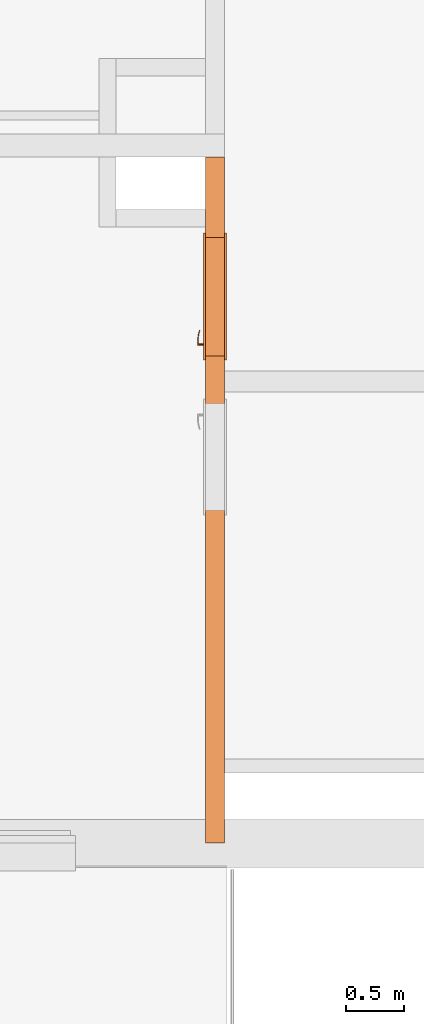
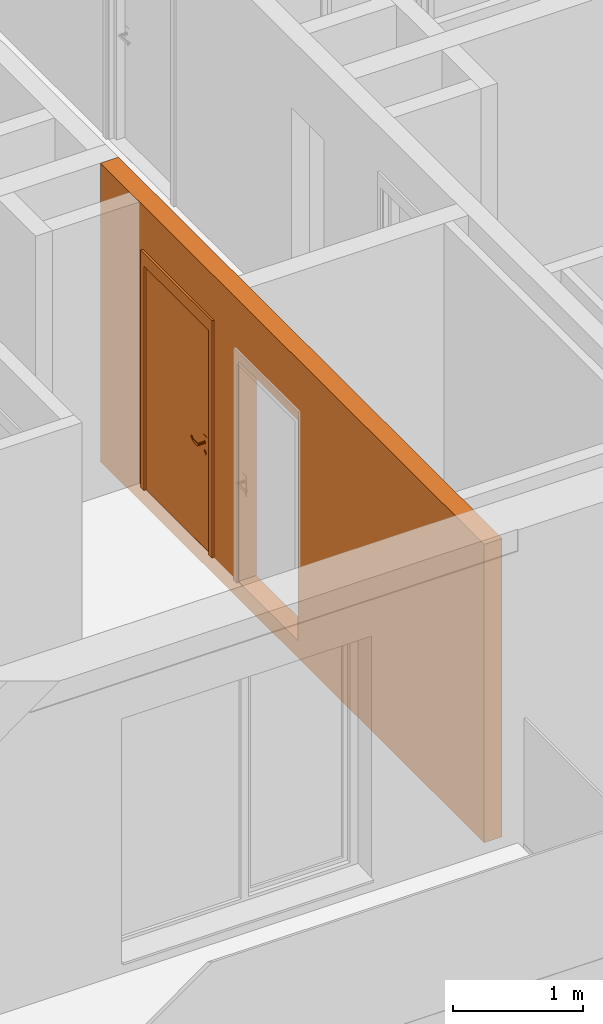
# One storey, part 9 of 67: 2 proxies, 2 openings.
"""IFC2X3 building model written with IfcOpenShell, lengths in millimetres."""

import ifcopenshell
import ifcopenshell.guid

model = None  # the IFC model being written
_history = None  # IfcOwnerHistory: only IFC2X3 demands one
_inside = {}  # id of a spatial element -> (the spatial element, [elements in it])
_under = {}  # id of a project, library or spatial element -> (it, [spatial elements below it])
_declared = {}  # id of a project -> (the project, [libraries it declares])
_typed = {}  # id of a type object -> (the type object, [elements of that type])
_made_of = {}  # id of a material, layer set ... -> (it, [elements and type objects made of it])


def new_model(schema):
    """Start an empty IFC model of exactly this schema.

    Asked for "IFC4X3", IfcOpenShell would pick the latest addendum, in which some entities
    have other attributes; the version numbers below select the first issue.
    IFC2X3 requires an IfcOwnerHistory on every rooted entity: one is made here for all.
    """
    global model, _history
    if schema == "IFC4X3":
        model = ifcopenshell.file(schema_version=(4, 3, 0, 0))
    else:
        model = ifcopenshell.file(schema=schema)
    _inside.clear()
    _under.clear()
    _declared.clear()
    _typed.clear()
    _made_of.clear()
    _history = None
    if model.schema == "IFC2X3":
        org = make("IfcOrganization", Name="unknown")
        user = make(
            "IfcPersonAndOrganization",
            ThePerson=make("IfcPerson", FamilyName="unknown"),
            TheOrganization=org,
        )
        app = make(
            "IfcApplication",
            ApplicationDeveloper=org,
            Version="unknown",
            ApplicationFullName="unknown",
            ApplicationIdentifier="unknown",
        )
        _history = make(
            "IfcOwnerHistory",
            OwningUser=user,
            OwningApplication=app,
            ChangeAction="ADDED",
            CreationDate=0,
        )
    return model


def make(cls, **values):
    """One entity of the class cls with the attributes given. An attribute that is None is left unset."""
    return model.create_entity(
        cls, **{name: value for name, value in values.items() if value is not None}
    )


def entity(cls, *values):
    """Any entity or typed value of the class cls, its attributes in the order of the schema. None: left unset."""
    e = model.create_entity(cls)
    for i, value in enumerate(values):
        if value is not None:
            e[i] = value
    return e


def rooted(cls, **values):
    """An entity with a GlobalId (a new one), such as an element, a storey or a relation."""
    return make(cls, GlobalId=ifcopenshell.guid.new(), OwnerHistory=_history, **values)


def si_unit(unit_type, name, prefix=None):
    """IfcSIUnit, for example si_unit("LENGTHUNIT", "METRE", prefix="MILLI")."""
    return make("IfcSIUnit", UnitType=unit_type, Prefix=prefix, Name=name)


def converted_unit(unit_type, name, factor, base, dimensions=None, offset=None):
    """IfcConversionBasedUnit, such as the inch: factor (a typed value) times the base unit."""
    return make(
        "IfcConversionBasedUnit"
        if offset is None
        else "IfcConversionBasedUnitWithOffset",
        ConversionOffset=offset,
        Dimensions=None
        if dimensions is None
        else entity("IfcDimensionalExponents", *dimensions),
        UnitType=unit_type,
        Name=name,
        ConversionFactor=make(
            "IfcMeasureWithUnit", ValueComponent=factor, UnitComponent=base
        ),
    )


def derived_unit(unit_type, elements):
    """IfcDerivedUnit: a product of units, each with its exponent."""
    return make(
        "IfcDerivedUnit",
        Elements=[
            make("IfcDerivedUnitElement", Unit=unit, Exponent=power)
            for unit, power in elements
        ],
        UnitType=unit_type,
    )


def money_unit(currency):
    """IfcMonetaryUnit."""
    return make("IfcMonetaryUnit", Currency=currency)


def assignment(units):
    """IfcUnitAssignment: the units of a project."""
    return None if units is None else make("IfcUnitAssignment", Units=units)


def point(xyz):
    """IfcCartesianPoint."""
    return None if xyz is None else make("IfcCartesianPoint", Coordinates=xyz)


def direction(xyz):
    """IfcDirection."""
    return None if xyz is None else make("IfcDirection", DirectionRatios=xyz)


def frame(location, z_axis=None, x_axis=None):
    """IfcAxis2Placement3D, a coordinate frame: its origin and axes. An axis left out is left unset."""
    return make(
        "IfcAxis2Placement3D",
        Location=point(location),
        Axis=direction(z_axis),
        RefDirection=direction(x_axis),
    )


def frame_2d(location, x_axis=None):
    """IfcAxis2Placement2D, a coordinate frame in the plane: its origin and x axis."""
    return make(
        "IfcAxis2Placement2D", Location=point(location), RefDirection=direction(x_axis)
    )


def origin_with_axes():
    """The frame at (0, 0, 0) with the z axis (0, 0, 1) and the x axis (1, 0, 0) written out."""
    return frame((0.0, 0.0, 0.0), z_axis=(0.0, 0.0, 1.0), x_axis=(1.0, 0.0, 0.0))


def origin_2d_with_axis():
    """The frame at (0, 0) in the plane with the x axis (1, 0) written out."""
    return frame_2d((0.0, 0.0), x_axis=(1.0, 0.0))


def place(relative_to, where):
    """IfcLocalPlacement: puts the frame where relative to a parent placement (None: the world)."""
    return make(
        "IfcLocalPlacement", PlacementRelTo=relative_to, RelativePlacement=where
    )


def context(
    kind, dimensions, precision=None, world=None, true_north=None, identifier=None
):
    """IfcGeometricRepresentationContext, for example the 3D "Model" context."""
    return make(
        "IfcGeometricRepresentationContext",
        ContextIdentifier=identifier,
        ContextType=kind,
        CoordinateSpaceDimension=dimensions,
        Precision=precision,
        WorldCoordinateSystem=world,
        TrueNorth=true_north,
    )


def subcontext(parent, identifier, kind, view, scale=None):
    """IfcGeometricRepresentationSubContext, for example "Body" below "Model"."""
    return make(
        "IfcGeometricRepresentationSubContext",
        ContextIdentifier=identifier,
        ContextType=kind,
        ParentContext=parent,
        TargetScale=scale,
        TargetView=view,
    )


def project(units=None, contexts=None):
    """IfcProject with its units and contexts."""
    return rooted(
        "IfcProject",
        Name="project",
        RepresentationContexts=contexts,
        UnitsInContext=assignment(units),
    )


def spatial(cls, under=None, at=None, **own):
    """A site, building, storey or space (cls), placed at a placement, below another one or the project."""
    s = rooted(cls, ObjectPlacement=at, **own)
    if under is not None:
        _under.setdefault(under.id(), (under, []))[1].append(s)
    return s


def profile(cls, at=None, kind="AREA", **sizes):
    """A parametric profile (cls). Its sizes go by their IFC names, for example OverallWidth=200.0."""
    return make(cls, ProfileType=kind, Position=at, **sizes)


def rectangle(**sizes):
    """IfcRectangleProfileDef."""
    return profile("IfcRectangleProfileDef", **sizes)


def extrude(swept, where, along, depth):
    """IfcExtrudedAreaSolid: the profile swept, set in the frame where, extruded along a direction by depth."""
    return make(
        "IfcExtrudedAreaSolid",
        SweptArea=swept,
        Position=where,
        ExtrudedDirection=direction(along),
        Depth=depth,
    )


def faces_of(points, faces, orient=None, outer=None):
    """IfcFace entities. A face is a list of loops; a loop is a list of indices into points, from 0.

    orient and outer hold one flag for each loop. By default every Orientation is true, the
    first loop of a face is its IfcFaceOuterBound and the others are IfcFaceBound.
    """
    made = []
    for i, loops in enumerate(faces):
        bounds = []
        for j, loop in enumerate(loops):
            is_outer = j == 0 if outer is None else outer[i][j]
            bounds.append(
                make(
                    "IfcFaceOuterBound" if is_outer else "IfcFaceBound",
                    Bound=make("IfcPolyLoop", Polygon=[points[k] for k in loop]),
                    Orientation=True if orient is None else orient[i][j],
                )
            )
        made.append(make("IfcFace", Bounds=bounds))
    return made


def open_shell(faces, orient=None, outer=None):
    """The faces of one IfcOpenShell. surface_model builds it on its shared points."""
    return ("IfcOpenShell", faces, orient, outer)


def faceted_brep(points, faces, orient=None, outer=None, voids=None):
    """IfcFacetedBrep: a solid bounded by flat faces; with voids (closed shells), ...WithVoids."""
    shared = [point(p) for p in points]
    hull = make("IfcClosedShell", CfsFaces=faces_of(shared, faces, orient, outer))
    if voids is None:
        return make("IfcFacetedBrep", Outer=hull)
    return make(
        "IfcFacetedBrepWithVoids",
        Outer=hull,
        Voids=[
            make(cls, CfsFaces=faces_of(shared, fs, o, b)) for cls, fs, o, b in voids
        ],
    )


def surface_model(cls, points, shells):
    """IfcFaceBasedSurfaceModel or IfcShellBasedSurfaceModel (cls): surfaces that need not close."""
    shared = [point(p) for p in points]
    made = [make(c, CfsFaces=faces_of(shared, fs, o, b)) for c, fs, o, b in shells]
    if cls == "IfcFaceBasedSurfaceModel":
        return make(cls, FbsmFaces=made)
    return make(cls, SbsmBoundary=made)


def shape(context_of_items, identifier, shape_type, items):
    """IfcShapeRepresentation: the items that make up one representation, for example the "Body"."""
    return make(
        "IfcShapeRepresentation",
        ContextOfItems=context_of_items,
        RepresentationIdentifier=identifier,
        RepresentationType=shape_type,
        Items=items,
    )


def source(mapping_origin, context_of_items, identifier, shape_type, items):
    """IfcRepresentationMap: a shape defined once, which mapped items show again and again."""
    return make(
        "IfcRepresentationMap",
        MappingOrigin=mapping_origin,
        MappedRepresentation=shape(context_of_items, identifier, shape_type, items),
    )


def transform(
    local_origin,
    x_axis=None,
    y_axis=None,
    z_axis=None,
    scale=None,
    scale2=None,
    scale3=None,
    uniform=True,
):
    """IfcCartesianTransformationOperator3D, or its non-uniform kind. x_axis, y_axis, z_axis: its Axis1, 2, 3."""
    if uniform:
        return make(
            "IfcCartesianTransformationOperator3D",
            Axis1=direction(x_axis),
            Axis2=direction(y_axis),
            LocalOrigin=point(local_origin),
            Scale=scale,
            Axis3=direction(z_axis),
        )
    return make(
        "IfcCartesianTransformationOperator3DnonUniform",
        Axis1=direction(x_axis),
        Axis2=direction(y_axis),
        LocalOrigin=point(local_origin),
        Scale=scale,
        Axis3=direction(z_axis),
        Scale2=scale2,
        Scale3=scale3,
    )


def mapped(mapping_source, mapping_target):
    """IfcMappedItem: shows the shape of a source again, moved by a transform."""
    return make(
        "IfcMappedItem", MappingSource=mapping_source, MappingTarget=mapping_target
    )


def material(Name=None, Category=None):
    """IfcMaterial."""
    return make("IfcMaterial", Name=Name, Category=Category)


def made_of(thing, what):
    """Note that an element or type object is made of a material, layer set ...; save() writes the relation."""
    if what is not None:
        _made_of.setdefault(what.id(), (what, []))[1].append(thing)
    return thing


def type_object(cls, material=None, **own):
    """A type object (cls), such as IfcWallType, which elements share."""
    return made_of(rooted(cls, **own), material)


def element(
    cls,
    number,
    at=None,
    inside=None,
    cuts=None,
    type_object=None,
    material=None,
    context=None,
    identifier="Body",
    shape_type=None,
    held_by="IfcProductDefinitionShape",
    body=None,
    shapes=None,
    **own,
):
    """One element of the class cls, such as IfcWall. Its Tag is "e" and its number.

    at: its placement. inside: the storey or other place that contains it. cuts: it is an
    opening in that element (IfcRelVoidsElement). A single representation is given by context,
    identifier, shape_type and body (its items); several are given by shapes. held_by: the class
    of the entity that holds the representations. save() writes the other relations.
    """
    e = rooted(cls, Tag="e%d" % number, ObjectPlacement=at, **own)
    if body is not None:
        shapes = [shape(context, identifier, shape_type, body)]
    if shapes is not None:
        e.Representation = make(held_by, Representations=shapes)
    if inside is not None:
        _inside.setdefault(inside.id(), (inside, []))[1].append(e)
    if cuts is not None:
        rooted(
            "IfcRelVoidsElement", RelatingBuildingElement=cuts, RelatedOpeningElement=e
        )
    if type_object is not None:
        _typed.setdefault(type_object.id(), (type_object, []))[1].append(e)
    return made_of(e, material)


def fill(opening, filler):
    """IfcRelFillsElement: the door or window that sits in an opening."""
    return rooted(
        "IfcRelFillsElement",
        RelatingOpeningElement=opening,
        RelatedBuildingElement=filler,
    )


def aggregate(whole, parts):
    """IfcRelAggregates: a whole, such as a stair, and the parts it consists of."""
    return rooted("IfcRelAggregates", RelatingObject=whole, RelatedObjects=parts)


def save(model, path):
    """Write the relations noted so far, then the file.

    IfcRelAggregates (storeys below a building ...), IfcRelContainedInSpatialStructure (elements
    in a storey), IfcRelDefinesByType, IfcRelAssociatesMaterial and IfcRelDeclares: one each for
    every whole, place, type object, material and project.
    """
    for whole, parts in _under.values():
        aggregate(whole, parts)
    for where, things in _inside.values():
        rooted(
            "IfcRelContainedInSpatialStructure",
            RelatedElements=things,
            RelatingStructure=where,
        )
    for kind, things in _typed.values():
        rooted("IfcRelDefinesByType", RelatedObjects=things, RelatingType=kind)
    for what, things in _made_of.values():
        rooted("IfcRelAssociatesMaterial", RelatedObjects=things, RelatingMaterial=what)
    for by, libraries in _declared.values():
        rooted("IfcRelDeclares", RelatingContext=by, RelatedDefinitions=libraries)
    model.write(path)


model = new_model("IFC2X3")

# Units and contexts
model_context = context("Model", 3, precision=0.01, world=origin_with_axes(), true_north=direction((0.34421633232, 0.938890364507)))
body_context = subcontext(model_context, "Body", "Model", "MODEL_VIEW")
ifc_project = project(units=[si_unit("LENGTHUNIT", "METRE", prefix="MILLI"), si_unit("AREAUNIT", "SQUARE_METRE"), si_unit("VOLUMEUNIT", "CUBIC_METRE"), converted_unit("PLANEANGLEUNIT", "DEGREE", entity("IfcPlaneAngleMeasure", 0.0174532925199), si_unit("PLANEANGLEUNIT", "RADIAN"), dimensions=[0, 0, 0, 0, 0, 0, 0]), si_unit("SOLIDANGLEUNIT", "STERADIAN"), money_unit("USD"), converted_unit("TIMEUNIT", "Year", entity("IfcTimeMeasure", 31556926.0), si_unit("TIMEUNIT", "SECOND"), dimensions=[0, 0, 1, 0, 0, 0, 0]), si_unit("MASSUNIT", "GRAM", prefix="KILO"), si_unit("THERMODYNAMICTEMPERATUREUNIT", "DEGREE_CELSIUS"), si_unit("LUMINOUSINTENSITYUNIT", "LUMEN"), si_unit("ENERGYUNIT", "JOULE", prefix="MEGA"), derived_unit("THERMALCONDUCTANCEUNIT", [(si_unit("POWERUNIT", "WATT"), 1), (si_unit("LENGTHUNIT", "METRE"), -1), (si_unit("THERMODYNAMICTEMPERATUREUNIT", "KELVIN"), -1)]), derived_unit("SPECIFICHEATCAPACITYUNIT", [(si_unit("ENERGYUNIT", "JOULE"), 1), (si_unit("MASSUNIT", "GRAM", prefix="KILO"), -1), (si_unit("THERMODYNAMICTEMPERATUREUNIT", "KELVIN"), -1)]), derived_unit("MASSDENSITYUNIT", [(si_unit("MASSUNIT", "GRAM", prefix="KILO"), 1), (si_unit("VOLUMEUNIT", "CUBIC_METRE"), -1)])], contexts=[model_context])

# Site, building, storey
site_placement = place(None, origin_with_axes())
site = spatial("IfcSite", under=ifc_project, at=site_placement, Name="USTRONIE MORSKIE", CompositionType="ELEMENT")
building_placement = place(site_placement, origin_with_axes())
building = spatial("IfcBuilding", under=site, at=building_placement, Name="Budynek", CompositionType="ELEMENT")
storey_placement = place(building_placement, frame((0.0, 0.0, 4000.0), z_axis=(0.0, 0.0, 1.0), x_axis=(1.0, 0.0, 0.0)))
storey = spatial("IfcBuildingStorey", under=building, at=storey_placement, Name="PIĘTRO 1", CompositionType="ELEMENT", Elevation=4000.0)

# Proxies, openings
ifc_material = material(Name="Beton konstrukcyjny B25")
building_element_proxy_type_1 = type_object("IfcBuildingElementProxyType", Name="Beton konstrukcyjny B25 160", PredefinedType="NOTDEFINED")
proxy_1_placement = place(storey_placement, frame((357517.920919, 715101.199036, -160.0), z_axis=(0.0, 0.0, 1.0), x_axis=(0.0, -1.0, 0.0)))
proxy_1 = element("IfcBuildingElementProxy", 1, at=proxy_1_placement, inside=storey, type_object=building_element_proxy_type_1, material=ifc_material, Name="SW-01", context=body_context, shape_type="Brep", body=[
    faceted_brep([(6000.0, 80.0, 0.0), (100.0, 80.0, 0.0), (100.0, 80.0, 2800.0), (6000.0, 80.0, 2800.0), (6000.0, -80.0, 0.0), (100.0, -80.0, 0.0), (100.0, -80.0, 2800.0), (6000.0, -80.0, 2800.0)], [[[0, 1, 2, 3]], [[4, 5, 1, 0]], [[5, 6, 2, 1]], [[3, 2, 6, 7]], [[4, 0, 3, 7]], [[7, 6, 5, 4]]]),
])
opening_1_placement = place(proxy_1_placement, frame((1300.00000044, 0.0, 160.0), z_axis=(0.0, 0.0, 1.0), x_axis=(1.0, 0.0, 0.0)))
opening_1 = element("IfcOpeningElement", 2, at=opening_1_placement, cuts=proxy_1, Name="Dw.1", context=body_context, shape_type="SweptSolid", body=[
    extrude(rectangle(XDim=1020.0, YDim=2120.0, at=origin_2d_with_axis()), frame((0.0, 160.0, 1060.0), z_axis=(0.0, -1.0, 0.0), x_axis=(-1.0, 0.0, 0.0)), (0.0, 0.0, 1.0), 480.0),
    extrude(rectangle(XDim=1094.0, YDim=2227.0, at=origin_2d_with_axis()), frame((0.0, 80.0, 1113.5), z_axis=(0.0, -1.0, 0.0), x_axis=(-1.0, 0.0, 0.0)), (0.0, 0.0, -1.0), 160.0),
    extrude(rectangle(XDim=1094.0, YDim=2227.0, at=origin_2d_with_axis()), frame((0.0, -80.0, 1113.5), z_axis=(0.0, 1.0, 0.0), x_axis=(-1.0, 0.0, 0.0)), (0.0, 0.0, -1.0), 160.0),
])
opening_2_placement = place(proxy_1_placement, frame((2680.00000044, 0.0, 160.0), z_axis=(0.0, 0.0, 1.0), x_axis=(1.0, 0.0, 0.0)))
element("IfcOpeningElement", 3, at=opening_2_placement, cuts=proxy_1, Name="Dw.4", context=body_context, shape_type="SweptSolid", body=[
    extrude(rectangle(XDim=920.0, YDim=2070.0, at=origin_2d_with_axis()), frame((0.0, 160.0, 1035.0), z_axis=(0.0, 1.0, 0.0), x_axis=(1.0, 0.0, 0.0)), (0.0, 0.0, -1.0), 480.0),
    extrude(rectangle(XDim=994.0, YDim=2177.0, at=origin_2d_with_axis()), frame((0.0, 80.0, 1088.5), z_axis=(0.0, 1.0, 0.0), x_axis=(1.0, 0.0, 0.0)), (0.0, 0.0, 1.0), 160.0),
    extrude(rectangle(XDim=994.0, YDim=2177.0, at=origin_2d_with_axis()), frame((0.0, -80.0, 1088.5), z_axis=(0.0, -1.0, 0.0), x_axis=(1.0, 0.0, 0.0)), (0.0, 0.0, 1.0), 160.0),
])
building_element_proxy_type_2 = type_object("IfcBuildingElementProxyType", Name="Drzwi 23", PredefinedType="NOTDEFINED")
shared_shape = source(origin_with_axes(), body_context, "Body", "SurfaceModel", [
    faceted_brep([(-510.0, -115.0, 0.0), (-485.0, -115.0, 0.0), (-485.0, -160.0, 0.0), (-510.0, -160.0, 0.0), (-510.0, -115.0, 2120.0), (-485.0, -115.0, 2095.0), (-485.0, -160.0, 2095.0), (-510.0, -160.0, 2120.0)], [[[0, 1, 2, 3]], [[0, 4, 5, 1]], [[1, 5, 6, 2]], [[3, 2, 6, 7]], [[4, 0, 3, 7]], [[5, 4, 7, 6]]]),
    faceted_brep([(510.0, -115.0, 2120.0), (485.0, -115.0, 2095.0), (485.0, -160.0, 2095.0), (510.0, -160.0, 2120.0), (510.0, -115.0, 0.0), (485.0, -115.0, 0.0), (485.0, -160.0, 0.0), (510.0, -160.0, 0.0)], [[[0, 1, 2, 3]], [[0, 4, 5, 1]], [[1, 5, 6, 2]], [[3, 2, 6, 7]], [[4, 0, 3, 7]], [[5, 4, 7, 6]]]),
    faceted_brep([(-485.0, -115.0, 2095.0), (485.0, -115.0, 2095.0), (485.0, -160.0, 2095.0), (-485.0, -160.0, 2095.0), (-510.0, -115.0, 2120.0), (510.0, -115.0, 2120.0), (510.0, -160.0, 2120.0), (-510.0, -160.0, 2120.0)], [[[0, 1, 2, 3]], [[0, 4, 5, 1]], [[1, 5, 6, 2]], [[3, 2, 6, 7]], [[4, 0, 3, 7]], [[5, 4, 7, 6]]]),
    faceted_brep([(-547.0, -179.0, 0.0), (-547.0, -160.0, 0.0), (-497.0, -160.0, 0.0), (-497.0, -179.0, 0.0), (-547.0, -179.0, 2227.0), (-547.0, -160.0, 2227.0), (-497.0, -160.0, 2107.0), (-497.0, -179.0, 2107.0)], [[[0, 1, 2, 3]], [[4, 5, 1, 0]], [[1, 5, 6, 2]], [[3, 2, 6, 7]], [[0, 3, 7, 4]], [[7, 6, 5, 4]]]),
    faceted_brep([(547.0, -179.0, 2227.0), (547.0, -160.0, 2227.0), (497.0, -160.0, 2107.0), (497.0, -179.0, 2107.0), (547.0, -179.0, 0.0), (547.0, -160.0, 0.0), (497.0, -160.0, 0.0), (497.0, -179.0, 0.0)], [[[0, 1, 2, 3]], [[4, 5, 1, 0]], [[1, 5, 6, 2]], [[3, 2, 6, 7]], [[0, 3, 7, 4]], [[7, 6, 5, 4]]]),
    faceted_brep([(-547.0, -179.0, 2227.0), (-547.0, -160.0, 2227.0), (-497.0, -160.0, 2107.0), (-497.0, -179.0, 2107.0), (547.0, -179.0, 2227.0), (547.0, -160.0, 2227.0), (497.0, -160.0, 2107.0), (497.0, -179.0, 2107.0)], [[[0, 1, 2, 3]], [[4, 5, 1, 0]], [[1, 5, 6, 2]], [[3, 2, 6, 7]], [[0, 3, 7, 4]], [[7, 6, 5, 4]]]),
    faceted_brep([(-547.0, 19.0, 0.0), (-497.0, 19.0, 0.0), (-497.0, 0.0, 0.0), (-547.0, 0.0, 0.0), (-547.0, 19.0, 2227.0), (-497.0, 19.0, 2107.0), (-497.0, 0.0, 2107.0), (-547.0, 0.0, 2227.0)], [[[0, 1, 2, 3]], [[0, 4, 5, 1]], [[1, 5, 6, 2]], [[3, 2, 6, 7]], [[4, 0, 3, 7]], [[5, 4, 7, 6]]]),
    faceted_brep([(547.0, 19.0, 2227.0), (497.0, 19.0, 2107.0), (497.0, 0.0, 2107.0), (547.0, 0.0, 2227.0), (547.0, 19.0, 0.0), (497.0, 19.0, 0.0), (497.0, 0.0, 0.0), (547.0, 0.0, 0.0)], [[[0, 1, 2, 3]], [[0, 4, 5, 1]], [[1, 5, 6, 2]], [[3, 2, 6, 7]], [[4, 0, 3, 7]], [[5, 4, 7, 6]]]),
    faceted_brep([(-547.0, 19.0, 2227.0), (-497.0, 19.0, 2107.0), (-497.0, 0.0, 2107.0), (-547.0, 0.0, 2227.0), (547.0, 19.0, 2227.0), (497.0, 19.0, 2107.0), (497.0, 0.0, 2107.0), (547.0, 0.0, 2227.0)], [[[0, 1, 2, 3]], [[0, 4, 5, 1]], [[1, 5, 6, 2]], [[3, 2, 6, 7]], [[4, 0, 3, 7]], [[5, 4, 7, 6]]]),
    faceted_brep([(-450.0, -40.0, 0.0), (-450.0, -40.0, 2050.0), (-450.0, -115.0, 2050.0), (-450.0, -115.0, 0.0), (-462.0, -40.0, 2050.0), (-462.0, -40.0, 0.0), (-462.0, 0.0, 2050.0), (-510.0, 0.0, 2050.0), (-510.0, -115.0, 2050.0), (-510.0, -115.0, 0.0), (-510.0, 0.0, 0.0), (-462.0, 0.0, 0.0)], [[[0, 1, 2, 3]], [[4, 1, 0, 5]], [[4, 6, 7, 8, 2, 1]], [[3, 2, 8, 9]], [[5, 0, 3, 9, 10, 11]], [[6, 4, 5, 11]], [[6, 11, 10, 7]], [[10, 9, 8, 7]]]),
    faceted_brep([(462.0, -40.0, 2050.0), (450.0, -40.0, 2050.0), (450.0, -115.0, 2050.0), (510.0, -115.0, 2050.0), (510.0, 0.0, 2050.0), (462.0, 0.0, 2050.0), (462.0, -40.0, 0.0), (450.0, -40.0, 0.0), (450.0, -115.0, 0.0), (510.0, -115.0, 0.0), (510.0, 0.0, 0.0), (462.0, 0.0, 0.0)], [[[0, 1, 2, 3, 4, 5]], [[1, 0, 6, 7]], [[1, 7, 8, 2]], [[3, 2, 8, 9]], [[4, 3, 9, 10]], [[11, 5, 4, 10]], [[0, 5, 11, 6]], [[6, 11, 10, 9, 8, 7]]]),
    faceted_brep([(-462.0, 0.0, 2062.0), (-462.0, 0.0, 2050.0), (-510.0, 0.0, 2050.0), (-510.0, 0.0, 2120.0), (510.0, 0.0, 2120.0), (510.0, 0.0, 2050.0), (462.0, 0.0, 2050.0), (462.0, 0.0, 2062.0), (-462.0, -40.0, 2062.0), (-462.0, -40.0, 2050.0), (-450.0, -40.0, 2050.0), (-450.0, -115.0, 2050.0), (-510.0, -115.0, 2050.0), (-510.0, -115.0, 2120.0), (510.0, -115.0, 2120.0), (510.0, -115.0, 2050.0), (462.0, -40.0, 2050.0), (450.0, -115.0, 2050.0), (450.0, -40.0, 2050.0), (462.0, -40.0, 2062.0)], [[[0, 1, 2, 3, 4, 5, 6, 7]], [[1, 0, 8, 9]], [[9, 10, 11, 12, 2, 1]], [[2, 12, 13, 3]], [[3, 13, 14, 4]], [[4, 14, 15, 5]], [[16, 6, 5, 15, 17, 18]], [[7, 6, 16, 19]], [[0, 7, 19, 8]], [[16, 18, 10, 9, 8, 19]], [[10, 18, 17, 11]], [[17, 15, 14, 13, 12, 11]]]),
    faceted_brep([(-440.5, -40.0, 1060.0), (-440.5, -43.0, 1060.0), (-383.5, -43.0, 1060.0), (-383.5, -40.0, 1060.0), (-440.5, -40.0, 870.0), (-440.5, -43.0, 870.0), (-383.5, -43.0, 870.0), (-383.5, -40.0, 870.0)], [[[0, 1, 2, 3]], [[4, 5, 1, 0]], [[1, 5, 6, 2]], [[3, 2, 6, 7]], [[0, 3, 7, 4]], [[7, 6, 5, 4]]]),
    faceted_brep([(-412.0, -104.0, 990.0), (-412.0, -111.0, 990.0), (-417.0, -111.0, 991.339745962), (-417.0, -104.0, 991.339745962), (-387.0, -104.0, 990.0), (-387.0, -111.0, 990.0), (-387.0, -111.0, 1010.0), (-412.0, -111.0, 1010.0), (-417.0, -111.0, 1008.66025404), (-420.660254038, -111.0, 1005.0), (-422.0, -111.0, 1000.0), (-420.660254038, -111.0, 995.0), (-420.660254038, -104.0, 995.0), (-422.0, -104.0, 1000.0), (-420.660254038, -104.0, 1005.0), (-417.0, -104.0, 1008.66025404), (-412.0, -104.0, 1010.0), (-387.0, -104.0, 1010.0)], [[[0, 1, 2, 3]], [[4, 5, 1, 0]], [[1, 5, 6, 7, 8, 9, 10, 11, 2]], [[3, 2, 11, 12]], [[0, 3, 12, 13, 14, 15, 16, 17, 4]], [[17, 6, 5, 4]], [[16, 7, 6, 17]], [[15, 8, 7, 16]], [[14, 9, 8, 15]], [[13, 10, 9, 14]], [[12, 11, 10, 13]]]),
    surface_model("IfcShellBasedSurfaceModel", [(-387.0, -104.0, 1010.0), (-373.596090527, -111.0, 1009.60730092), (-373.901717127, -104.0, 1009.60730092), (-387.0, -111.0, 1010.0), (-346.890283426, -108.663544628, 1008.82190275), (-373.901717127, -104.0, 990.392699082), (-387.0, -104.0, 990.0), (-387.0, -111.0, 990.0), (-373.596090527, -111.0, 990.392699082), (-346.890283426, -108.663544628, 991.178097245), (-347.804837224, -101.716818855, 1008.82190275), (-347.804837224, -101.716818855, 991.178097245), (-320.489735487, -104.008415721, 991.963495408), (-320.489735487, -104.008415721, 1008.03650459), (-322.006256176, -97.1678329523, 1008.03650459), (-322.006256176, -97.1678329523, 991.963495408), (-294.59537082, -97.0700416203, 992.748893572), (-294.59537082, -97.0700416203, 1007.25110643), (-296.702316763, -90.3876628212, 1007.25110643), (-296.702316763, -90.3876628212, 992.748893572), (-286.538795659, -94.1376880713, 993.0), (-286.538795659, -94.1376880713, 1007.0), (-288.829442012, -87.5221707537, 1007.0), (-288.829442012, -87.5221707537, 993.0)], [open_shell([[[0, 1, 2]], [[0, 3, 1]], [[2, 1, 4]], [[0, 2, 5, 6]], [[3, 7, 8, 1]], [[1, 8, 9, 4]], [[2, 4, 10]], [[2, 10, 11, 5]], [[5, 7, 6]], [[5, 8, 7]], [[11, 9, 8]], [[4, 9, 12, 13]], [[10, 4, 13]], [[10, 14, 15, 11]], [[11, 8, 5]], [[15, 9, 11]], [[15, 12, 9]], [[13, 12, 16, 17]], [[10, 13, 14]], [[14, 18, 19, 15]], [[19, 12, 15]], [[19, 16, 12]], [[17, 16, 20, 21]], [[14, 13, 17]], [[14, 17, 18]], [[18, 22, 23, 19]], [[23, 16, 19]], [[23, 20, 16]], [[22, 21, 20, 23]], [[18, 17, 21]], [[18, 21, 22]]])]),
    faceted_brep([(-401.607695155, -53.0, 994.0), (-400.741669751, -43.0, 993.5), (-399.0, -43.0, 1000.0), (-400.0, -53.0, 1000.0), (-406.0, -53.0, 989.607695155), (-405.5, -43.0, 988.741669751), (-412.0, -43.0, 987.0), (-418.5, -43.0, 988.741669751), (-423.258330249, -43.0, 993.5), (-425.0, -43.0, 1000.0), (-423.258330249, -43.0, 1006.5), (-418.5, -43.0, 1011.25833025), (-412.0, -43.0, 1013.0), (-405.5, -43.0, 1011.25833025), (-400.741669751, -43.0, 1006.5), (-401.607695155, -53.0, 1006.0), (-406.0, -53.0, 1010.39230485), (-412.0, -53.0, 1012.0), (-418.0, -53.0, 1010.39230485), (-422.392304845, -53.0, 1006.0), (-424.0, -53.0, 1000.0), (-422.392304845, -53.0, 994.0), (-418.0, -53.0, 989.607695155), (-412.0, -53.0, 988.0)], [[[0, 1, 2, 3]], [[4, 5, 1, 0]], [[2, 1, 5, 6, 7, 8, 9, 10, 11, 12, 13, 14]], [[3, 2, 14, 15]], [[3, 15, 16, 17, 18, 19, 20, 21, 22, 23, 4, 0]], [[23, 6, 5, 4]], [[22, 7, 6, 23]], [[21, 8, 7, 22]], [[20, 9, 8, 21]], [[19, 10, 9, 20]], [[18, 11, 10, 19]], [[17, 12, 11, 18]], [[16, 13, 12, 17]], [[15, 14, 13, 16]]]),
    faceted_brep([(-394.679491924, -47.0, 895.0), (-392.947441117, -43.0, 894.0), (-390.0, -43.0, 905.0), (-392.0, -47.0, 905.0), (-402.0, -47.0, 887.679491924), (-401.0, -43.0, 885.947441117), (-412.0, -43.0, 883.0), (-423.0, -43.0, 885.947441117), (-431.052558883, -43.0, 894.0), (-434.0, -43.0, 905.0), (-431.052558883, -43.0, 916.0), (-423.0, -43.0, 924.052558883), (-412.0, -43.0, 927.0), (-401.0, -43.0, 924.052558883), (-392.947441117, -43.0, 916.0), (-394.679491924, -47.0, 915.0), (-402.0, -47.0, 922.320508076), (-412.0, -47.0, 925.0), (-422.0, -47.0, 922.320508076), (-429.320508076, -47.0, 915.0), (-432.0, -47.0, 905.0), (-429.320508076, -47.0, 895.0), (-422.0, -47.0, 887.679491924), (-412.0, -47.0, 885.0)], [[[0, 1, 2, 3]], [[4, 5, 1, 0]], [[2, 1, 5, 6, 7, 8, 9, 10, 11, 12, 13, 14]], [[3, 2, 14, 15]], [[3, 15, 16, 17, 18, 19, 20, 21, 22, 23, 4, 0]], [[23, 6, 5, 4]], [[22, 7, 6, 23]], [[21, 8, 7, 22]], [[20, 9, 8, 21]], [[19, 10, 9, 20]], [[18, 11, 10, 19]], [[17, 12, 11, 18]], [[16, 13, 12, 17]], [[15, 14, 13, 16]]]),
    faceted_brep([(-407.050252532, -49.0, 909.050252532), (-406.343145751, -47.0, 908.343145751), (-404.0, -47.0, 914.0), (-405.0, -49.0, 914.0), (-412.0, -49.0, 907.0), (-412.0, -47.0, 906.0), (-417.656854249, -47.0, 908.343145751), (-420.0, -47.0, 914.0), (-417.656854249, -47.0, 919.656854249), (-412.0, -47.0, 922.0), (-406.343145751, -47.0, 919.656854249), (-407.050252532, -49.0, 918.949747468), (-412.0, -49.0, 921.0), (-416.949747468, -49.0, 918.949747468), (-419.0, -49.0, 914.0), (-416.949747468, -49.0, 909.050252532)], [[[0, 1, 2, 3]], [[4, 5, 1, 0]], [[2, 1, 5, 6, 7, 8, 9, 10]], [[3, 2, 10, 11]], [[3, 11, 12, 13, 14, 15, 4, 0]], [[15, 6, 5, 4]], [[14, 7, 6, 15]], [[13, 8, 7, 14]], [[12, 9, 8, 13]], [[11, 10, 9, 12]]]),
    faceted_brep([(-412.0, -53.0, 1010.0), (-412.0, -104.0, 1010.0), (-407.0, -104.0, 1008.66025404), (-407.0, -53.0, 1008.66025404), (-417.0, -53.0, 1008.66025404), (-417.0, -104.0, 1008.66025404), (-420.660254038, -104.0, 1005.0), (-422.0, -104.0, 1000.0), (-420.660254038, -104.0, 995.0), (-417.0, -104.0, 991.339745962), (-412.0, -104.0, 990.0), (-407.0, -104.0, 991.339745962), (-403.339745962, -104.0, 995.0), (-402.0, -104.0, 1000.0), (-403.339745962, -104.0, 1005.0), (-403.339745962, -53.0, 1005.0), (-402.0, -53.0, 1000.0), (-403.339745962, -53.0, 995.0), (-407.0, -53.0, 991.339745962), (-412.0, -53.0, 990.0), (-417.0, -53.0, 991.339745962), (-420.660254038, -53.0, 995.0), (-422.0, -53.0, 1000.0), (-420.660254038, -53.0, 1005.0)], [[[0, 1, 2, 3]], [[4, 5, 1, 0]], [[1, 5, 6, 7, 8, 9, 10, 11, 12, 13, 14, 2]], [[3, 2, 14, 15]], [[0, 3, 15, 16, 17, 18, 19, 20, 21, 22, 23, 4]], [[23, 6, 5, 4]], [[22, 7, 6, 23]], [[21, 8, 7, 22]], [[20, 9, 8, 21]], [[19, 10, 9, 20]], [[18, 11, 10, 19]], [[17, 12, 11, 18]], [[16, 13, 12, 17]], [[15, 14, 13, 16]]]),
    faceted_brep([(-440.5, 0.0, 1060.0), (-383.5, 0.0, 1060.0), (-383.5, 3.0, 1060.0), (-440.5, 3.0, 1060.0), (-440.5, 0.0, 870.0), (-383.5, 0.0, 870.0), (-383.5, 3.0, 870.0), (-440.5, 3.0, 870.0)], [[[0, 1, 2, 3]], [[0, 4, 5, 1]], [[1, 5, 6, 2]], [[3, 2, 6, 7]], [[4, 0, 3, 7]], [[5, 4, 7, 6]]]),
    faceted_brep([(-412.0, 64.0, 990.0), (-417.0, 64.0, 991.339745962), (-417.0, 71.0, 991.339745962), (-412.0, 71.0, 990.0), (-387.0, 64.0, 990.0), (-387.0, 64.0, 1010.0), (-412.0, 64.0, 1010.0), (-417.0, 64.0, 1008.66025404), (-420.660254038, 64.0, 1005.0), (-422.0, 64.0, 1000.0), (-420.660254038, 64.0, 995.0), (-420.660254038, 71.0, 995.0), (-422.0, 71.0, 1000.0), (-420.660254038, 71.0, 1005.0), (-417.0, 71.0, 1008.66025404), (-412.0, 71.0, 1010.0), (-387.0, 71.0, 1010.0), (-387.0, 71.0, 990.0)], [[[0, 1, 2, 3]], [[0, 4, 5, 6, 7, 8, 9, 10, 1]], [[1, 10, 11, 2]], [[3, 2, 11, 12, 13, 14, 15, 16, 17]], [[4, 0, 3, 17]], [[5, 4, 17, 16]], [[6, 5, 16, 15]], [[7, 6, 15, 14]], [[8, 7, 14, 13]], [[9, 8, 13, 12]], [[10, 9, 12, 11]]]),
    surface_model("IfcShellBasedSurfaceModel", [(-387.0, 64.0, 1010.0), (-373.901717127, 64.0, 1009.60730092), (-373.596090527, 71.0, 1009.60730092), (-387.0, 64.0, 990.0), (-373.901717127, 64.0, 990.392699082), (-346.890283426, 68.6635446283, 1008.82190275), (-387.0, 71.0, 1010.0), (-387.0, 71.0, 990.0), (-347.804837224, 61.716818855, 991.178097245), (-347.804837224, 61.716818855, 1008.82190275), (-346.890283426, 68.6635446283, 991.178097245), (-373.596090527, 71.0, 990.392699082), (-322.006256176, 57.1678329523, 991.963495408), (-322.006256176, 57.1678329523, 1008.03650459), (-320.489735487, 64.0084157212, 1008.03650459), (-320.489735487, 64.0084157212, 991.963495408), (-296.702316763, 50.3876628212, 992.748893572), (-296.702316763, 50.3876628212, 1007.25110643), (-294.59537082, 57.0700416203, 1007.25110643), (-294.59537082, 57.0700416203, 992.748893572), (-288.829442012, 47.5221707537, 993.0), (-288.829442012, 47.5221707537, 1007.0), (-286.538795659, 54.1376880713, 1007.0), (-286.538795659, 54.1376880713, 993.0)], [open_shell([[[0, 1, 2]], [[0, 3, 4, 1]], [[1, 5, 2]], [[0, 2, 6]], [[4, 3, 7]], [[1, 4, 8, 9]], [[1, 9, 5]], [[2, 5, 10, 11]], [[6, 2, 11, 7]], [[4, 7, 11]], [[8, 4, 11]], [[9, 8, 12, 13]], [[9, 14, 5]], [[5, 14, 15, 10]], [[8, 11, 10]], [[12, 8, 10]], [[13, 12, 16, 17]], [[9, 13, 14]], [[14, 18, 19, 15]], [[12, 10, 15]], [[16, 12, 15]], [[17, 16, 20, 21]], [[13, 17, 18]], [[13, 18, 14]], [[18, 22, 23, 19]], [[16, 15, 19]], [[20, 16, 19]], [[21, 20, 23, 22]], [[17, 21, 22]], [[17, 22, 18]], [[20, 19, 23]]])]),
    faceted_brep([(-401.607695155, 13.0, 994.0), (-400.0, 13.0, 1000.0), (-399.0, 3.0, 1000.0), (-400.741669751, 3.0, 993.5), (-406.0, 13.0, 989.607695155), (-412.0, 13.0, 988.0), (-418.0, 13.0, 989.607695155), (-422.392304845, 13.0, 994.0), (-424.0, 13.0, 1000.0), (-422.392304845, 13.0, 1006.0), (-418.0, 13.0, 1010.39230485), (-412.0, 13.0, 1012.0), (-406.0, 13.0, 1010.39230485), (-401.607695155, 13.0, 1006.0), (-400.741669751, 3.0, 1006.5), (-405.5, 3.0, 1011.25833025), (-412.0, 3.0, 1013.0), (-418.5, 3.0, 1011.25833025), (-423.258330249, 3.0, 1006.5), (-425.0, 3.0, 1000.0), (-423.258330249, 3.0, 993.5), (-418.5, 3.0, 988.741669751), (-412.0, 3.0, 987.0), (-405.5, 3.0, 988.741669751)], [[[0, 1, 2, 3]], [[1, 0, 4, 5, 6, 7, 8, 9, 10, 11, 12, 13]], [[1, 13, 14, 2]], [[2, 14, 15, 16, 17, 18, 19, 20, 21, 22, 23, 3]], [[4, 0, 3, 23]], [[5, 4, 23, 22]], [[6, 5, 22, 21]], [[7, 6, 21, 20]], [[8, 7, 20, 19]], [[9, 8, 19, 18]], [[10, 9, 18, 17]], [[11, 10, 17, 16]], [[12, 11, 16, 15]], [[13, 12, 15, 14]]]),
    faceted_brep([(-394.679491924, 7.0, 895.0), (-392.0, 7.0, 905.0), (-390.0, 3.0, 905.0), (-392.947441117, 3.0, 894.0), (-402.0, 7.0, 887.679491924), (-412.0, 7.0, 885.0), (-422.0, 7.0, 887.679491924), (-429.320508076, 7.0, 895.0), (-432.0, 7.0, 905.0), (-429.320508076, 7.0, 915.0), (-422.0, 7.0, 922.320508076), (-412.0, 7.0, 925.0), (-402.0, 7.0, 922.320508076), (-394.679491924, 7.0, 915.0), (-392.947441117, 3.0, 916.0), (-401.0, 3.0, 924.052558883), (-412.0, 3.0, 927.0), (-423.0, 3.0, 924.052558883), (-431.052558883, 3.0, 916.0), (-434.0, 3.0, 905.0), (-431.052558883, 3.0, 894.0), (-423.0, 3.0, 885.947441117), (-412.0, 3.0, 883.0), (-401.0, 3.0, 885.947441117)], [[[0, 1, 2, 3]], [[1, 0, 4, 5, 6, 7, 8, 9, 10, 11, 12, 13]], [[1, 13, 14, 2]], [[2, 14, 15, 16, 17, 18, 19, 20, 21, 22, 23, 3]], [[4, 0, 3, 23]], [[5, 4, 23, 22]], [[6, 5, 22, 21]], [[7, 6, 21, 20]], [[8, 7, 20, 19]], [[9, 8, 19, 18]], [[10, 9, 18, 17]], [[11, 10, 17, 16]], [[12, 11, 16, 15]], [[13, 12, 15, 14]]]),
    faceted_brep([(-407.050252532, 9.0, 909.050252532), (-405.0, 9.0, 914.0), (-404.0, 7.0, 914.0), (-406.343145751, 7.0, 908.343145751), (-412.0, 9.0, 907.0), (-416.949747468, 9.0, 909.050252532), (-419.0, 9.0, 914.0), (-416.949747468, 9.0, 918.949747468), (-412.0, 9.0, 921.0), (-407.050252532, 9.0, 918.949747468), (-406.343145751, 7.0, 919.656854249), (-412.0, 7.0, 922.0), (-417.656854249, 7.0, 919.656854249), (-420.0, 7.0, 914.0), (-417.656854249, 7.0, 908.343145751), (-412.0, 7.0, 906.0)], [[[0, 1, 2, 3]], [[1, 0, 4, 5, 6, 7, 8, 9]], [[1, 9, 10, 2]], [[2, 10, 11, 12, 13, 14, 15, 3]], [[4, 0, 3, 15]], [[5, 4, 15, 14]], [[6, 5, 14, 13]], [[7, 6, 13, 12]], [[8, 7, 12, 11]], [[9, 8, 11, 10]]]),
    faceted_brep([(-412.0, 13.0, 1010.0), (-407.0, 13.0, 1008.66025404), (-407.0, 64.0, 1008.66025404), (-412.0, 64.0, 1010.0), (-417.0, 13.0, 1008.66025404), (-420.660254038, 13.0, 1005.0), (-422.0, 13.0, 1000.0), (-420.660254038, 13.0, 995.0), (-417.0, 13.0, 991.339745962), (-412.0, 13.0, 990.0), (-407.0, 13.0, 991.339745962), (-403.339745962, 13.0, 995.0), (-402.0, 13.0, 1000.0), (-403.339745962, 13.0, 1005.0), (-403.339745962, 64.0, 1005.0), (-402.0, 64.0, 1000.0), (-403.339745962, 64.0, 995.0), (-407.0, 64.0, 991.339745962), (-412.0, 64.0, 990.0), (-417.0, 64.0, 991.339745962), (-420.660254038, 64.0, 995.0), (-422.0, 64.0, 1000.0), (-420.660254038, 64.0, 1005.0), (-417.0, 64.0, 1008.66025404)], [[[0, 1, 2, 3]], [[0, 4, 5, 6, 7, 8, 9, 10, 11, 12, 13, 1]], [[1, 13, 14, 2]], [[3, 2, 14, 15, 16, 17, 18, 19, 20, 21, 22, 23]], [[4, 0, 3, 23]], [[5, 4, 23, 22]], [[6, 5, 22, 21]], [[7, 6, 21, 20]], [[8, 7, 20, 19]], [[9, 8, 19, 18]], [[10, 9, 18, 17]], [[11, 10, 17, 16]], [[12, 11, 16, 15]], [[13, 12, 15, 14]]]),
    faceted_brep([(462.0, 0.0, 0.0), (462.0, -40.0, 0.0), (-462.0, -40.0, 0.0), (-462.0, 0.0, 0.0), (462.0, 0.0, 2062.0), (462.0, -40.0, 2062.0), (-462.0, -40.0, 2062.0), (-462.0, 0.0, 2062.0)], [[[0, 1, 2, 3]], [[4, 5, 1, 0]], [[1, 5, 6, 2]], [[3, 2, 6, 7]], [[0, 3, 7, 4]], [[7, 6, 5, 4]]]),
])
proxy_2_placement = place(opening_1_placement, frame((450.0, 0.0, 0.0), z_axis=(0.0, 0.0, 1.0), x_axis=(-1.0, 0.0, 0.0)))
proxy_2 = element("IfcBuildingElementProxy", 4, at=proxy_2_placement, inside=storey, type_object=building_element_proxy_type_2, Name="Dw.1", context=body_context, shape_type="MappedRepresentation", body=[
    mapped(shared_shape, transform((450.0, 80.0, 0.0))),
])
fill(opening_1, proxy_2)

save(model, "model.ifc")
